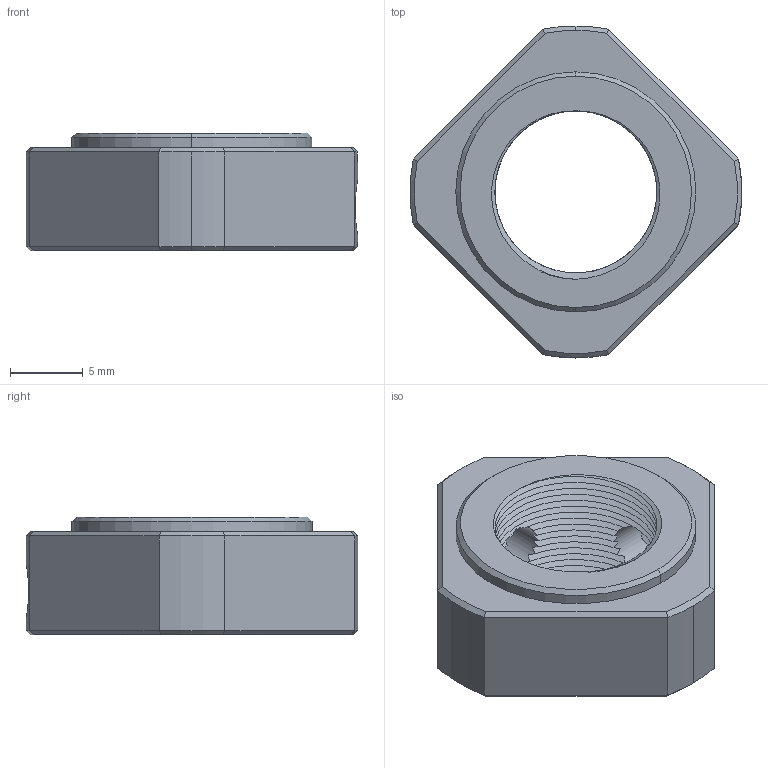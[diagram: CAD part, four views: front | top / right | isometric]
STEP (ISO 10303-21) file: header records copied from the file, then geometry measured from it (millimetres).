
FILE_DESCRIPTION (( 'STEP AP203' ), '1' );
FILE_NAME ('RN12.STEP', '2013-05-22T03:53:01', ( '' ), ( '' ), 'SwSTEP 2.0', 'SolidWorks 2013', '' );
FILE_SCHEMA (( 'CONFIG_CONTROL_DESIGN' ));
Length unit declared in the file: millimetre
Products named in the file (1): RN12
Bounding box: 22.77 x 22.8 x 8.1 mm (x, y, z)
Volume: 1687 mm3; surface area: 1633.7 mm2
Topology: 1 solids, 1 shells, 69 faces, 181 edges, 113 vertices
Faces by surface type: bspline 31, plane 15, cone 12, cylinder 11
Entity records: 23259 total; most frequent: CARTESIAN_POINT 21843, ORIENTED_EDGE 362, EDGE_CURVE 181, DIRECTION 167, VERTEX_POINT 113, B_SPLINE_CURVE_WITH_KNOTS 90, EDGE_LOOP 74, ADVANCED_FACE 69
